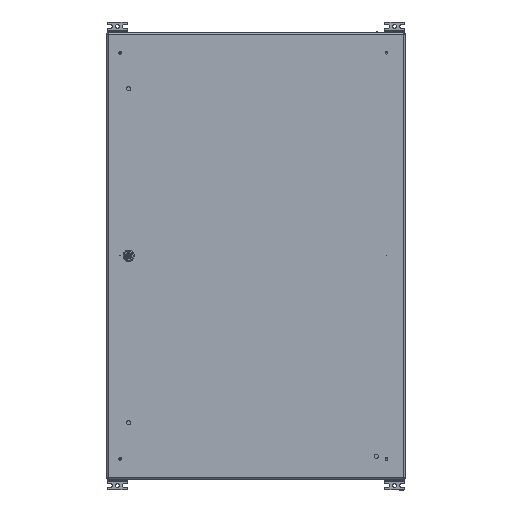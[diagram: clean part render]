
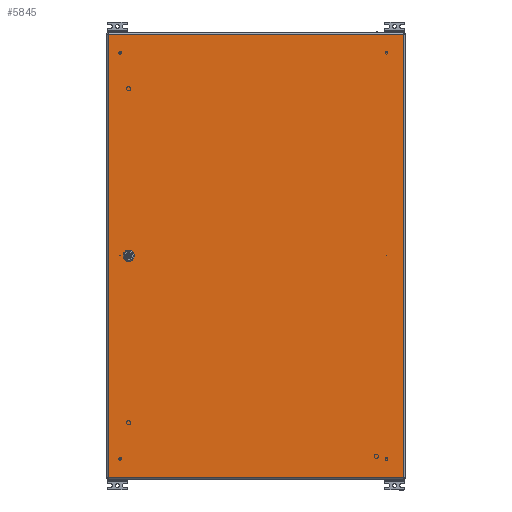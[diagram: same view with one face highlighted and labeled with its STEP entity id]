
A CAD part, top view. The second image highlights one B-rep face of the part: STEP entity #5845.
In plain terms, the highlighted planar face has unit normal (0, 0, 1).
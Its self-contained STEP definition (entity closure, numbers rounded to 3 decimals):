
#5845=ADVANCED_FACE('',(#14726,#14728),#14730,.T.);
#14726=FACE_BOUND('',#14727,.T.);
#14727=EDGE_LOOP('',(#40801,#40802,#40803,#40804));
#14728=FACE_BOUND('',#14729,.T.);
#14729=EDGE_LOOP('',(#40805,#40806,#40807,#40808,#40809,#40810,#40811,#40812));
#14730=PLANE('',#14731);
#14731=AXIS2_PLACEMENT_3D('',#14732,#14733,#14734);
#14732=CARTESIAN_POINT('',(0.,0.,1.5));
#14733=DIRECTION('',(0.,0.,1.));
#14734=DIRECTION('',(1.,0.,0.));
#40801=ORIENTED_EDGE('',*,*,#46084,.T.);
#40802=ORIENTED_EDGE('',*,*,#46085,.T.);
#40803=ORIENTED_EDGE('',*,*,#46086,.T.);
#40804=ORIENTED_EDGE('',*,*,#46087,.T.);
#40805=ORIENTED_EDGE('',*,*,#46043,.T.);
#40806=ORIENTED_EDGE('',*,*,#46058,.T.);
#40807=ORIENTED_EDGE('',*,*,#46056,.T.);
#40808=ORIENTED_EDGE('',*,*,#46054,.T.);
#40809=ORIENTED_EDGE('',*,*,#46052,.T.);
#40810=ORIENTED_EDGE('',*,*,#46050,.T.);
#40811=ORIENTED_EDGE('',*,*,#46048,.T.);
#40812=ORIENTED_EDGE('',*,*,#46046,.T.);
#46043=EDGE_CURVE('',#50060,#50061,#50062,.F.);
#46046=EDGE_CURVE('',#50065,#50060,#50066,.F.);
#46048=EDGE_CURVE('',#50068,#50065,#50069,.F.);
#46050=EDGE_CURVE('',#50071,#50068,#50072,.F.);
#46052=EDGE_CURVE('',#50074,#50071,#50075,.F.);
#46054=EDGE_CURVE('',#50077,#50074,#50078,.F.);
#46056=EDGE_CURVE('',#50080,#50077,#50081,.F.);
#46058=EDGE_CURVE('',#50061,#50080,#50083,.F.);
#46084=EDGE_CURVE('',#50124,#50125,#50126,.T.);
#46085=EDGE_CURVE('',#50125,#50127,#50128,.T.);
#46086=EDGE_CURVE('',#50127,#50129,#50130,.T.);
#46087=EDGE_CURVE('',#50129,#50124,#50131,.T.);
#50060=VERTEX_POINT('',#59761);
#50061=VERTEX_POINT('',#59762);
#50062=LINE('',#59763,#59764);
#50065=VERTEX_POINT('',#59772);
#50066=CIRCLE('',#59773,11.25);
#50068=VERTEX_POINT('',#59780);
#50069=LINE('',#59781,#59782);
#50071=VERTEX_POINT('',#59787);
#50072=CIRCLE('',#59788,11.25);
#50074=VERTEX_POINT('',#59795);
#50075=LINE('',#59796,#59797);
#50077=VERTEX_POINT('',#59802);
#50078=CIRCLE('',#59803,11.25);
#50080=VERTEX_POINT('',#59810);
#50081=LINE('',#59811,#59812);
#50083=CIRCLE('',#59817,11.25);
#50124=VERTEX_POINT('',#59918);
#50125=VERTEX_POINT('',#59919);
#50126=LINE('',#59920,#59921);
#50127=VERTEX_POINT('',#59923);
#50128=LINE('',#59924,#59925);
#50129=VERTEX_POINT('',#59927);
#50130=LINE('',#59928,#59929);
#50131=LINE('',#59931,#59932);
#59761=CARTESIAN_POINT('',(-589.545,-64.6,1.5));
#59762=CARTESIAN_POINT('',(-599.455,-64.6,1.5));
#59763=CARTESIAN_POINT('',(-599.455,-64.6,1.5));
#59764=VECTOR('',#59765,1.);
#59765=DIRECTION('',(1.,0.,0.));
#59772=CARTESIAN_POINT('',(-584.4,-59.455,1.5));
#59773=AXIS2_PLACEMENT_3D('',#59774,#59775,#59776);
#59774=CARTESIAN_POINT('',(-594.5,-54.5,1.5));
#59775=DIRECTION('',(0.,0.,1.));
#59776=DIRECTION('',(0.44,-0.898,0.));
#59780=CARTESIAN_POINT('',(-584.4,-49.545,1.5));
#59781=CARTESIAN_POINT('',(-584.4,-59.455,1.5));
#59782=VECTOR('',#59783,1.);
#59783=DIRECTION('',(0.,1.,0.));
#59787=CARTESIAN_POINT('',(-589.545,-44.4,1.5));
#59788=AXIS2_PLACEMENT_3D('',#59789,#59790,#59791);
#59789=CARTESIAN_POINT('',(-594.5,-54.5,1.5));
#59790=DIRECTION('',(0.,0.,1.));
#59791=DIRECTION('',(0.898,0.44,0.));
#59795=CARTESIAN_POINT('',(-599.455,-44.4,1.5));
#59796=CARTESIAN_POINT('',(-589.545,-44.4,1.5));
#59797=VECTOR('',#59798,1.);
#59798=DIRECTION('',(-1.,0.,0.));
#59802=CARTESIAN_POINT('',(-604.6,-49.545,1.5));
#59803=AXIS2_PLACEMENT_3D('',#59804,#59805,#59806);
#59804=CARTESIAN_POINT('',(-594.5,-54.5,1.5));
#59805=DIRECTION('',(0.,0.,1.));
#59806=DIRECTION('',(-0.44,0.898,0.));
#59810=CARTESIAN_POINT('',(-604.6,-59.455,1.5));
#59811=CARTESIAN_POINT('',(-604.6,-49.545,1.5));
#59812=VECTOR('',#59813,1.);
#59813=DIRECTION('',(0.,-1.,0.));
#59817=AXIS2_PLACEMENT_3D('',#59818,#59819,#59820);
#59818=CARTESIAN_POINT('',(-594.5,-54.5,1.5));
#59819=DIRECTION('',(0.,0.,1.));
#59820=DIRECTION('',(-0.898,-0.44,0.));
#59918=CARTESIAN_POINT('',(0.,-792.,1.5));
#59919=CARTESIAN_POINT('',(0.,0.,1.5));
#59920=CARTESIAN_POINT('',(0.,-792.,1.5));
#59921=VECTOR('',#59922,1.);
#59922=DIRECTION('',(0.,1.,0.));
#59923=CARTESIAN_POINT('',(-1189.,0.,1.5));
#59924=CARTESIAN_POINT('',(0.,0.,1.5));
#59925=VECTOR('',#59926,1.);
#59926=DIRECTION('',(-1.,0.,0.));
#59927=CARTESIAN_POINT('',(-1189.,-792.,1.5));
#59928=CARTESIAN_POINT('',(-1189.,0.,1.5));
#59929=VECTOR('',#59930,1.);
#59930=DIRECTION('',(0.,-1.,0.));
#59931=CARTESIAN_POINT('',(-1189.,-792.,1.5));
#59932=VECTOR('',#59933,1.);
#59933=DIRECTION('',(1.,0.,0.));
